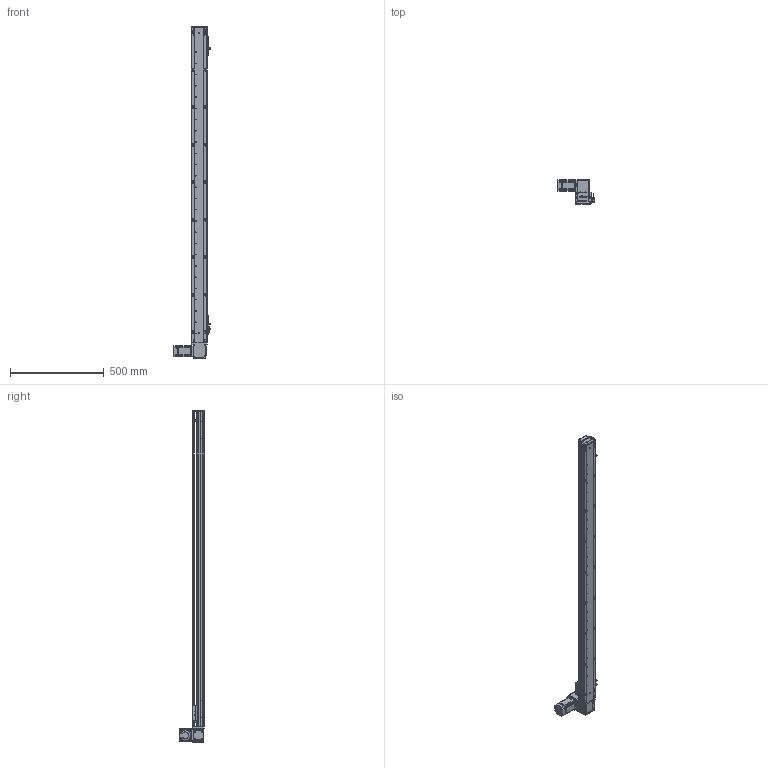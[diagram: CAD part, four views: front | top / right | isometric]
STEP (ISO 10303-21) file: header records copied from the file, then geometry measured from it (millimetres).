
FILE_DESCRIPTION (( 'STEP AP203' ), '1' );
FILE_NAME ('RY80-T-300-UL.SLDASM_1500.step', '2021-03-01T02:17:58', ( '盈信电脑' ), ( '东莞市道滘镇水果街19号' ), 'SwSTEP 2.0', 'SolidWorks 2012', '' );
FILE_SCHEMA (( 'CONFIG_CONTROL_DESIGN' ));
Length unit declared in the file: millimetre
Products named in the file (19): RY80-T-上下折同步轮盖板; RY80-T-300-UL.SLDASM_1500; RY80-T肮祭謫奻殏俋欶; 1; RY80-T-M4蹟翐2; RY80-T粣創揤踡輸; 滅袉蝶18-10; RY80-T萇儂假蚾啣; RY80-T翋肮祭謫裔啣; RY80-T-翋肮祭謫釱; RY80-T肮祭湍揤輸1; RY80俋离覜茼え; RY80-T肮祭湍揤輸2; 覜茼ん672; RY80-T-300-UL倰第奻裔啣_1500; RY80-T綴裔啣; 672嫖萇羲壽假蚾釱; RY80-T肮祭謫臏賑輸; RY80-T-300-UL倰第菁釱_1500
Assembly tree (24 placements, depth 2):
  RY80-T-300-UL.SLDASM_1500
    RY80-T-300-UL倰第菁釱_1500
    RY80-T肮祭謫臏賑輸
    RY80-T-300-UL倰第奻裔啣_1500
    RY80-T綴裔啣
    672嫖萇羲壽假蚾釱  x2
    覜茼ん672  x3
    RY80俋离覜茼え
    RY80-T-翋肮祭謫釱
    RY80-T肮祭湍揤輸1
    RY80-T肮祭湍揤輸2
    RY80-T萇儂假蚾啣
    RY80-T粣創揤踡輸  x2
    滅袉蝶18-10  x2
    RY80-T翋肮祭謫裔啣
    1
    RY80-T肮祭謫奻殏俋欶
    RY80-T-M4蹟翐2  x2
    RY80-T-上下折同步轮盖板
Bounding box: 198.7 x 130.5 x 1770 mm (x, y, z)
Volume: 2841934.7 mm3; surface area: 1207447.7 mm2
Topology: 24 solids, 24 shells, 2598 faces, 7171 edges, 4659 vertices
Faces by surface type: plane 1364, cylinder 1028, cone 150, bspline 56
Entity records: 81995 total; most frequent: CARTESIAN_POINT 20258, ORIENTED_EDGE 12726, DIRECTION 11904, EDGE_CURVE 6363, VERTEX_POINT 4180, AXIS2_PLACEMENT_3D 4030, LINE 3844, VECTOR 3844
